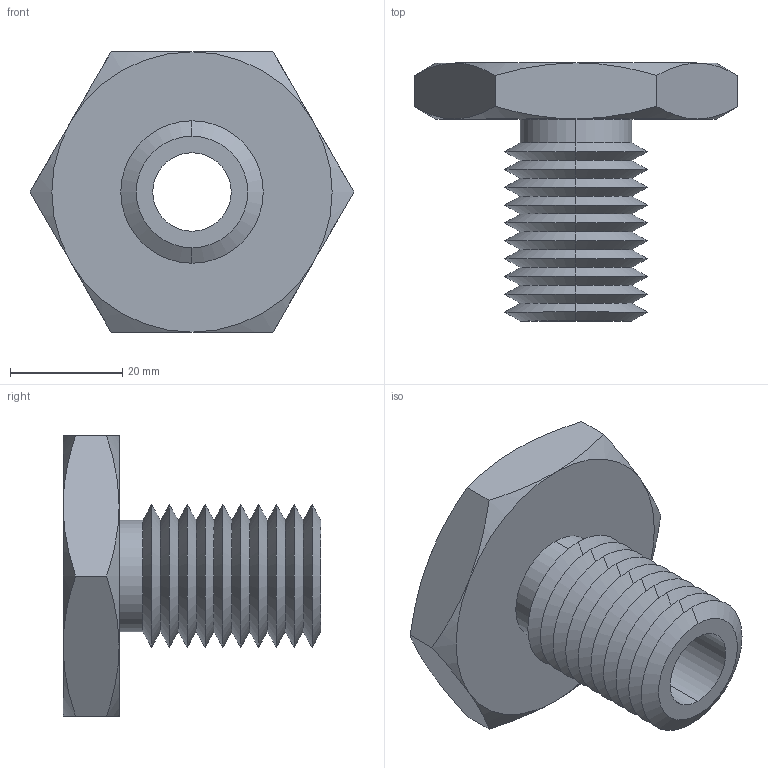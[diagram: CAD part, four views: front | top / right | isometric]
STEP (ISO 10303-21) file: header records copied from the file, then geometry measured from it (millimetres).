
FILE_DESCRIPTION (( 'STEP AP203' ), '1' );
FILE_NAME ('63302.W5100_M14x2.step', '2013-12-08T11:39:13', ( 'User' ), ( '' ), 'SwSTEP 2.0', 'SolidWorks 2009', '' );
FILE_SCHEMA (( 'CONFIG_CONTROL_DESIGN' ));
Length unit declared in the file: millimetre
Products named in the file (1): 63302.W5100_M14x2
Bounding box: 57.73 x 46 x 50 mm (x, y, z)
Volume: 28378.6 mm3; surface area: 12315.5 mm2
Topology: 1 solids, 1 shells, 67 faces, 138 edges, 74 vertices
Faces by surface type: cone 54, plane 9, cylinder 4
Entity records: 1939 total; most frequent: CARTESIAN_POINT 464, DIRECTION 312, ORIENTED_EDGE 276, EDGE_CURVE 138, AXIS2_PLACEMENT_3D 130, VERTEX_POINT 74, EDGE_LOOP 70, ADVANCED_FACE 67
